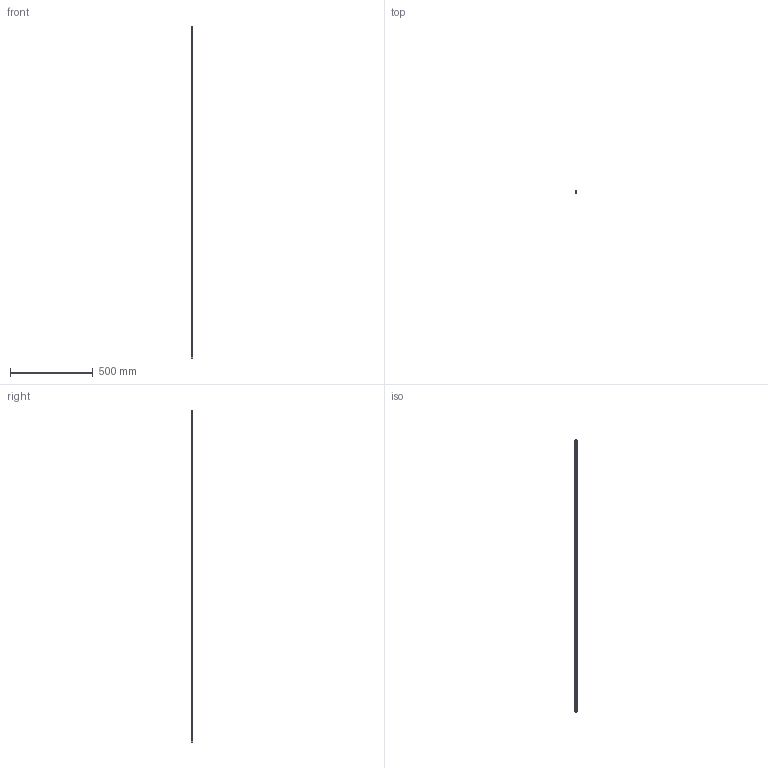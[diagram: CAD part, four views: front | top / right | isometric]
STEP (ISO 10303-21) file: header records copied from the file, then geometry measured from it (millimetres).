
FILE_DESCRIPTION (( 'STEP AP203' ), '1' );
FILE_NAME ('ChannelLine_i3_24.STEP', '2024-11-29T06:36:06', ( '' ), ( '' ), 'SwSTEP 2.0', 'SolidWorks 2023', '' );
FILE_SCHEMA (( 'CONFIG_CONTROL_DESIGN' ));
Length unit declared in the file: millimetre
Products named in the file (3): 2583301_25.833.98 - L=2000mm; 2584901_25.849.02 - L=2000mm; ChannelLine_i3_24
Assembly tree (2 placements, depth 2):
  ChannelLine_i3_24
    2583301_25.833.98 - L=2000mm
    2584901_25.849.02 - L=2000mm
Bounding box: 11 x 12 x 2000 mm (x, y, z)
Volume: 112671.8 mm3; surface area: 191374.2 mm2
Topology: 2 solids, 2 shells, 64 faces, 180 edges, 120 vertices
Faces by surface type: cylinder 33, plane 31
Entity records: 2395 total; most frequent: DIRECTION 384, CARTESIAN_POINT 369, ORIENTED_EDGE 360, EDGE_CURVE 180, AXIS2_PLACEMENT_3D 135, VERTEX_POINT 120, LINE 114, VECTOR 114
